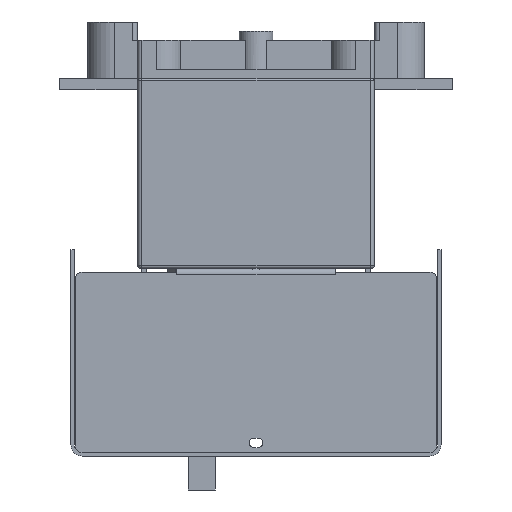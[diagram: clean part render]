
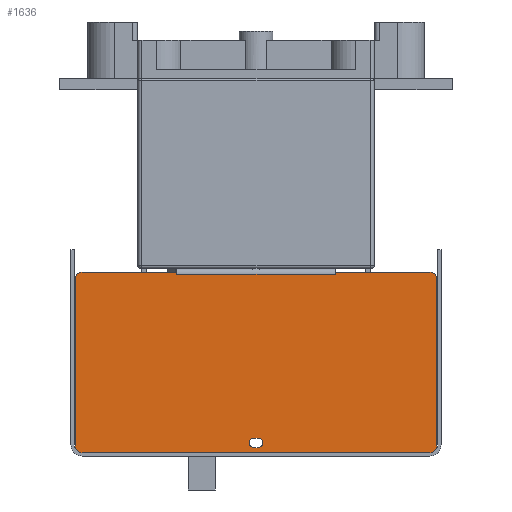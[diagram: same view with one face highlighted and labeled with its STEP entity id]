
A CAD part, left-side view. The second image highlights one B-rep face of the part: STEP entity #1636.
In plain terms, the highlighted planar face has unit normal (-1, 0, 0).
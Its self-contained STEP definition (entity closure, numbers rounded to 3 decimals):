
#1636=ADVANCED_FACE('',(#7051,#7052),#2482,.T.);
#2482=PLANE('',#19588);
#3591=LINE('',#28109,#5583);
#3601=LINE('',#28134,#5593);
#3603=LINE('',#28138,#5595);
#3605=LINE('',#28142,#5597);
#3608=LINE('',#28148,#5600);
#3618=LINE('',#28183,#5610);
#3619=LINE('',#28187,#5611);
#3620=LINE('',#28188,#5612);
#3621=LINE('',#28192,#5613);
#3622=LINE('',#28196,#5614);
#3623=LINE('',#28200,#5615);
#3624=LINE('',#28204,#5616);
#5583=VECTOR('',#22541,1.);
#5593=VECTOR('',#22567,1.);
#5595=VECTOR('',#22571,1.);
#5597=VECTOR('',#22575,1.);
#5600=VECTOR('',#22580,1.);
#5610=VECTOR('',#22608,1.);
#5611=VECTOR('',#22611,1.);
#5612=VECTOR('',#22612,1.);
#5613=VECTOR('',#22615,1.);
#5614=VECTOR('',#22618,1.);
#5615=VECTOR('',#22621,1.);
#5616=VECTOR('',#22624,1.);
#7051=FACE_BOUND('',#7636,.T.);
#7052=FACE_BOUND('',#7637,.T.);
#7636=EDGE_LOOP('',(#10296,#10297,#10298,#10299));
#7637=EDGE_LOOP('',(#10300,#10301,#10302,#10303,#10304,#10305,#10306,#10307,
#10308,#10309,#10310,#10311,#10312,#10313));
#10296=ORIENTED_EDGE('',*,*,#16546,.T.);
#10297=ORIENTED_EDGE('',*,*,#16547,.T.);
#10298=ORIENTED_EDGE('',*,*,#16548,.T.);
#10299=ORIENTED_EDGE('',*,*,#16549,.T.);
#10300=ORIENTED_EDGE('',*,*,#16525,.F.);
#10301=ORIENTED_EDGE('',*,*,#16523,.T.);
#10302=ORIENTED_EDGE('',*,*,#16510,.T.);
#10303=ORIENTED_EDGE('',*,*,#16527,.T.);
#10304=ORIENTED_EDGE('',*,*,#16530,.F.);
#10305=ORIENTED_EDGE('',*,*,#16550,.T.);
#10306=ORIENTED_EDGE('',*,*,#16551,.T.);
#10307=ORIENTED_EDGE('',*,*,#16552,.T.);
#10308=ORIENTED_EDGE('',*,*,#16553,.T.);
#10309=ORIENTED_EDGE('',*,*,#16554,.T.);
#10310=ORIENTED_EDGE('',*,*,#16555,.T.);
#10311=ORIENTED_EDGE('',*,*,#16556,.T.);
#10312=ORIENTED_EDGE('',*,*,#16557,.T.);
#10313=ORIENTED_EDGE('',*,*,#16558,.T.);
#14433=VERTEX_POINT('',#28108);
#14434=VERTEX_POINT('',#28110);
#14439=VERTEX_POINT('',#28131);
#14442=VERTEX_POINT('',#28139);
#14443=VERTEX_POINT('',#28143);
#14445=VERTEX_POINT('',#28149);
#14459=VERTEX_POINT('',#28181);
#14460=VERTEX_POINT('',#28182);
#14461=VERTEX_POINT('',#28184);
#14462=VERTEX_POINT('',#28186);
#14463=VERTEX_POINT('',#28189);
#14464=VERTEX_POINT('',#28191);
#14465=VERTEX_POINT('',#28193);
#14466=VERTEX_POINT('',#28195);
#14467=VERTEX_POINT('',#28197);
#14468=VERTEX_POINT('',#28199);
#14469=VERTEX_POINT('',#28201);
#14470=VERTEX_POINT('',#28203);
#16510=EDGE_CURVE('',#14434,#14433,#3591,.T.);
#16523=EDGE_CURVE('',#14439,#14434,#3601,.T.);
#16525=EDGE_CURVE('',#14439,#14442,#3603,.T.);
#16527=EDGE_CURVE('',#14433,#14443,#3605,.T.);
#16530=EDGE_CURVE('',#14445,#14443,#3608,.T.);
#16546=EDGE_CURVE('',#14459,#14460,#18515,.T.);
#16547=EDGE_CURVE('',#14460,#14461,#3618,.T.);
#16548=EDGE_CURVE('',#14461,#14462,#18516,.T.);
#16549=EDGE_CURVE('',#14462,#14459,#3619,.T.);
#16550=EDGE_CURVE('',#14445,#14463,#3620,.T.);
#16551=EDGE_CURVE('',#14463,#14464,#18517,.T.);
#16552=EDGE_CURVE('',#14464,#14465,#3621,.T.);
#16553=EDGE_CURVE('',#14465,#14466,#18518,.T.);
#16554=EDGE_CURVE('',#14466,#14467,#3622,.T.);
#16555=EDGE_CURVE('',#14467,#14468,#18519,.T.);
#16556=EDGE_CURVE('',#14468,#14469,#3623,.T.);
#16557=EDGE_CURVE('',#14469,#14470,#18520,.T.);
#16558=EDGE_CURVE('',#14470,#14442,#3624,.T.);
#18515=CIRCLE('',#19582,2.1);
#18516=CIRCLE('',#19583,2.1);
#18517=CIRCLE('',#19584,3.);
#18518=CIRCLE('',#19585,3.);
#18519=CIRCLE('',#19586,3.);
#18520=CIRCLE('',#19587,3.);
#19582=AXIS2_PLACEMENT_3D('',#28180,#22606,#22607);
#19583=AXIS2_PLACEMENT_3D('',#28185,#22609,#22610);
#19584=AXIS2_PLACEMENT_3D('',#28190,#22613,#22614);
#19585=AXIS2_PLACEMENT_3D('',#28194,#22616,#22617);
#19586=AXIS2_PLACEMENT_3D('',#28198,#22619,#22620);
#19587=AXIS2_PLACEMENT_3D('',#28202,#22622,#22623);
#19588=AXIS2_PLACEMENT_3D('',#28205,#22625,#22626);
#22541=DIRECTION('',(0.,1.,0.));
#22567=DIRECTION('',(0.,1.,0.));
#22571=DIRECTION('',(0.,0.,1.));
#22575=DIRECTION('',(0.,1.,0.));
#22580=DIRECTION('',(0.,0.,-1.));
#22606=DIRECTION('',(1.,0.,0.));
#22607=DIRECTION('',(0.,1.,0.));
#22608=DIRECTION('',(0.,-1.,0.));
#22609=DIRECTION('',(1.,0.,0.));
#22610=DIRECTION('',(0.,1.,0.));
#22611=DIRECTION('',(0.,1.,0.));
#22612=DIRECTION('',(0.,1.,0.));
#22613=DIRECTION('',(-1.,0.,0.));
#22614=DIRECTION('',(0.,1.,0.));
#22615=DIRECTION('',(0.,0.,-1.));
#22616=DIRECTION('',(-1.,0.,0.));
#22617=DIRECTION('',(0.,1.,0.));
#22618=DIRECTION('',(0.,-1.,0.));
#22619=DIRECTION('',(-1.,0.,0.));
#22620=DIRECTION('',(0.,1.,0.));
#22621=DIRECTION('',(0.,0.,1.));
#22622=DIRECTION('',(-1.,0.,0.));
#22623=DIRECTION('',(0.,1.,0.));
#22624=DIRECTION('',(0.,1.,0.));
#22625=DIRECTION('',(-1.,0.,0.));
#22626=DIRECTION('',(0.,-1.,0.));
#28108=CARTESIAN_POINT('',(-189.3,35.,-86.8));
#28109=CARTESIAN_POINT('',(-189.3,50.5,-86.8));
#28110=CARTESIAN_POINT('',(-189.3,-35.,-86.8));
#28131=CARTESIAN_POINT('',(-189.3,-35.002,-86.8));
#28134=CARTESIAN_POINT('',(-189.3,77.,-86.8));
#28138=CARTESIAN_POINT('',(-189.3,-35.002,-162.8));
#28139=CARTESIAN_POINT('',(-189.3,-35.002,-85.8));
#28142=CARTESIAN_POINT('',(-189.3,77.,-86.8));
#28143=CARTESIAN_POINT('',(-189.3,35.002,-86.8));
#28148=CARTESIAN_POINT('',(-189.3,35.002,-162.8));
#28149=CARTESIAN_POINT('',(-189.3,35.002,-85.8));
#28180=CARTESIAN_POINT('',(-189.3,1.,-161.4));
#28181=CARTESIAN_POINT('',(-189.3,1.,-163.5));
#28182=CARTESIAN_POINT('',(-189.3,1.,-159.3));
#28183=CARTESIAN_POINT('',(-189.3,1.,-159.3));
#28184=CARTESIAN_POINT('',(-189.3,-1.,-159.3));
#28185=CARTESIAN_POINT('',(-189.3,-1.,-161.4));
#28186=CARTESIAN_POINT('',(-189.3,-1.,-163.5));
#28187=CARTESIAN_POINT('',(-189.3,-1.,-163.5));
#28188=CARTESIAN_POINT('',(-189.3,-77.,-85.8));
#28189=CARTESIAN_POINT('',(-189.3,77.,-85.8));
#28190=CARTESIAN_POINT('',(-189.3,77.,-88.8));
#28191=CARTESIAN_POINT('',(-189.3,80.,-88.8));
#28192=CARTESIAN_POINT('',(-189.3,80.,-88.8));
#28193=CARTESIAN_POINT('',(-189.3,80.,-162.8));
#28194=CARTESIAN_POINT('',(-189.3,77.,-162.8));
#28195=CARTESIAN_POINT('',(-189.3,77.,-165.8));
#28196=CARTESIAN_POINT('',(-189.3,77.,-165.8));
#28197=CARTESIAN_POINT('',(-189.3,-77.,-165.8));
#28198=CARTESIAN_POINT('',(-189.3,-77.,-162.8));
#28199=CARTESIAN_POINT('',(-189.3,-80.,-162.8));
#28200=CARTESIAN_POINT('',(-189.3,-80.,-162.8));
#28201=CARTESIAN_POINT('',(-189.3,-80.,-88.8));
#28202=CARTESIAN_POINT('',(-189.3,-77.,-88.8));
#28203=CARTESIAN_POINT('',(-189.3,-77.,-85.8));
#28204=CARTESIAN_POINT('',(-189.3,-77.,-85.8));
#28205=CARTESIAN_POINT('',(-189.3,77.,-162.8));
